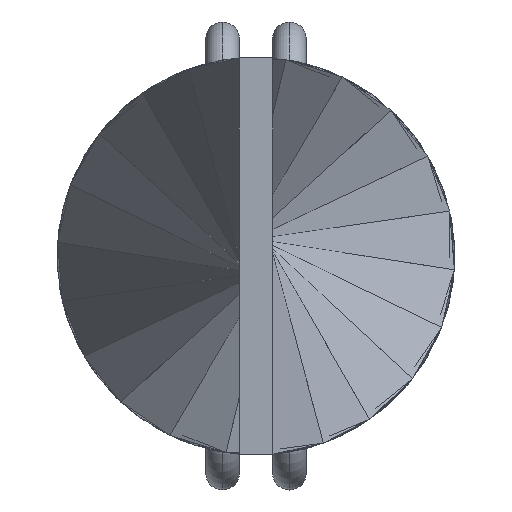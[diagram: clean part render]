
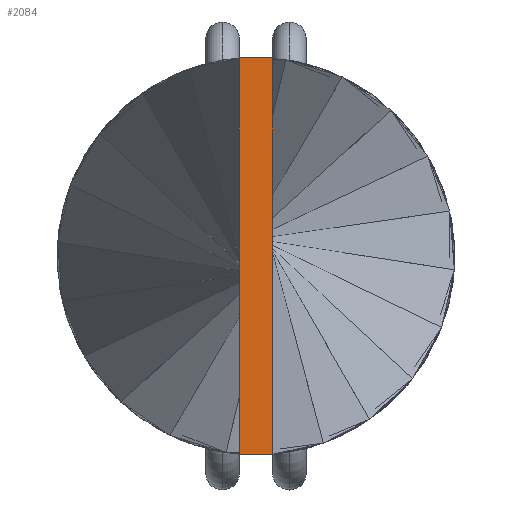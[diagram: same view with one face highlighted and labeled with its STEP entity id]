
A CAD part, left-side view. The second image highlights one B-rep face of the part: STEP entity #2084.
In plain terms, the highlighted planar face has unit normal (-1, 0, 0).
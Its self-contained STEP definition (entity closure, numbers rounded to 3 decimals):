
#360 = CARTESIAN_POINT ( 'NONE',  ( -200., -0.5, -5.925 ) ) ;
#430 = CARTESIAN_POINT ( 'NONE',  ( -200., -0.5, 5.925 ) ) ;
#498 = DIRECTION ( 'NONE',  ( 0., 0., 1. ) ) ;
#608 = AXIS2_PLACEMENT_3D ( 'NONE', #3835, #1414, #498 ) ;
#858 = EDGE_CURVE ( 'NONE', #3601, #3512, #1898, .T. ) ;
#1220 = DIRECTION ( 'NONE',  ( 0., 0., -1. ) ) ;
#1326 = FACE_OUTER_BOUND ( 'NONE', #3492, .T. ) ;
#1414 = DIRECTION ( 'NONE',  ( -1., 0., 0. ) ) ;
#1529 = CARTESIAN_POINT ( 'NONE',  ( -200., 0.5, -5.925 ) ) ;
#1596 = DIRECTION ( 'NONE',  ( 0., -1., 0. ) ) ;
#1660 = PLANE ( 'NONE',  #608 ) ;
#1898 = LINE ( 'NONE', #2543, #3562 ) ;
#1916 = VERTEX_POINT ( 'NONE', #2255 ) ;
#1937 = VECTOR ( 'NONE', #1220, 1000. ) ;
#2036 = VECTOR ( 'NONE', #1596, 1000. ) ;
#2084 = ADVANCED_FACE ( 'NONE', ( #1326 ), #1660, .T. ) ;
#2136 = DIRECTION ( 'NONE',  ( 0., 1., 0. ) ) ;
#2183 = LINE ( 'NONE', #2776, #4013 ) ;
#2255 = CARTESIAN_POINT ( 'NONE',  ( -200., 0.5, 5.925 ) ) ;
#2273 = EDGE_CURVE ( 'NONE', #2901, #3601, #3411, .T. ) ;
#2299 = ORIENTED_EDGE ( 'NONE', *, *, #2273, .T. ) ;
#2365 = EDGE_CURVE ( 'NONE', #3512, #1916, #2183, .T. ) ;
#2377 = EDGE_CURVE ( 'NONE', #1916, #2901, #3520, .T. ) ;
#2540 = DIRECTION ( 'NONE',  ( 0., 0., 1. ) ) ;
#2543 = CARTESIAN_POINT ( 'NONE',  ( -200., -0.5, -5.925 ) ) ;
#2776 = CARTESIAN_POINT ( 'NONE',  ( -200., -0.5, 5.925 ) ) ;
#2901 = VERTEX_POINT ( 'NONE', #4014 ) ;
#3411 = LINE ( 'NONE', #1529, #2036 ) ;
#3492 = EDGE_LOOP ( 'NONE', ( #2299, #3583, #3641, #3885 ) ) ;
#3511 = CARTESIAN_POINT ( 'NONE',  ( -200., 0.5, 5.925 ) ) ;
#3512 = VERTEX_POINT ( 'NONE', #430 ) ;
#3520 = LINE ( 'NONE', #3511, #1937 ) ;
#3562 = VECTOR ( 'NONE', #2540, 1000. ) ;
#3583 = ORIENTED_EDGE ( 'NONE', *, *, #858, .T. ) ;
#3601 = VERTEX_POINT ( 'NONE', #360 ) ;
#3641 = ORIENTED_EDGE ( 'NONE', *, *, #2365, .T. ) ;
#3835 = CARTESIAN_POINT ( 'NONE',  ( -200., 0., 0. ) ) ;
#3885 = ORIENTED_EDGE ( 'NONE', *, *, #2377, .T. ) ;
#4013 = VECTOR ( 'NONE', #2136, 1000. ) ;
#4014 = CARTESIAN_POINT ( 'NONE',  ( -200., 0.5, -5.925 ) ) ;
